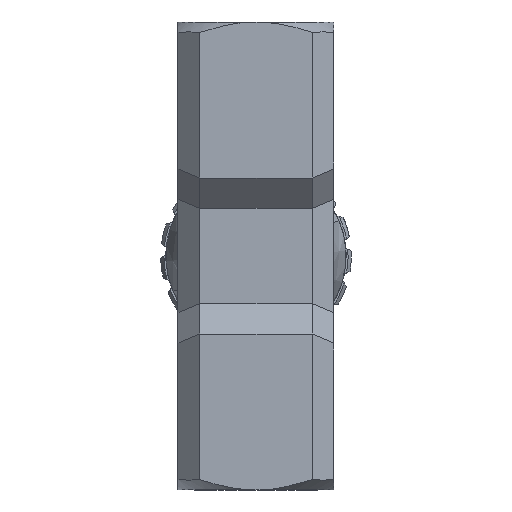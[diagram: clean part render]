
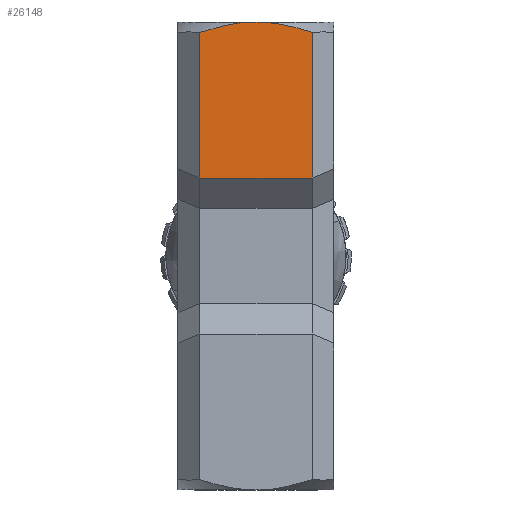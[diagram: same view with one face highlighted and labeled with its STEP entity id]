
A CAD part, front view. The second image highlights one B-rep face of the part: STEP entity #26148.
In plain terms, the highlighted planar face has unit normal (0, -1, 0).
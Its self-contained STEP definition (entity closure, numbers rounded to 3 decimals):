
#1049 = B_SPLINE_CURVE_WITH_KNOTS ( 'NONE', 3,
 ( #8892, #22765, #15868, #2037, #18190, #4359, #20524, #6667 ),
 .UNSPECIFIED., .F., .F.,
 ( 4, 2, 2, 4 ),
 ( 0.016, 0.018, 0.02, 0.023 ),
 .UNSPECIFIED. ) ;
#1063 = DIRECTION ( 'NONE',  ( 0., 0., 1. ) ) ;
#1218 = VERTEX_POINT ( 'NONE', #14076 ) ;
#1982 = LINE ( 'NONE', #27396, #13493 ) ;
#2037 = CARTESIAN_POINT ( 'NONE',  ( 2.217, -9., 26.854 ) ) ;
#2156 = DIRECTION ( 'NONE',  ( 0., 0., 1. ) ) ;
#2306 = LINE ( 'NONE', #29816, #13822 ) ;
#3825 = VERTEX_POINT ( 'NONE', #29737 ) ;
#3841 = CARTESIAN_POINT ( 'NONE',  ( -6.5, -9., 25.787 ) ) ;
#4359 = CARTESIAN_POINT ( 'NONE',  ( 4.384, -9., 26.446 ) ) ;
#4902 = CARTESIAN_POINT ( 'NONE',  ( -6.5, -9., 25.787 ) ) ;
#5733 = CARTESIAN_POINT ( 'NONE',  ( 0., -9., 27. ) ) ;
#6667 = CARTESIAN_POINT ( 'NONE',  ( 6.5, -9., 25.787 ) ) ;
#7159 = LINE ( 'NONE', #18118, #24919 ) ;
#8892 = CARTESIAN_POINT ( 'NONE',  ( 0., -9., 27. ) ) ;
#10326 = VERTEX_POINT ( 'NONE', #4902 ) ;
#10620 = CARTESIAN_POINT ( 'NONE',  ( -6.5, -9., 9. ) ) ;
#10757 = CARTESIAN_POINT ( 'NONE',  ( -2.208, -9., 26.878 ) ) ;
#10868 = FACE_OUTER_BOUND ( 'NONE', #27182, .T. ) ;
#11121 = AXIS2_PLACEMENT_3D ( 'NONE', #28761, #14866, #1063 ) ;
#11221 = ORIENTED_EDGE ( 'NONE', *, *, #29573, .F. ) ;
#13079 = CARTESIAN_POINT ( 'NONE',  ( 0., -9., 27. ) ) ;
#13493 = VECTOR ( 'NONE', #29701, 1000. ) ;
#13822 = VECTOR ( 'NONE', #2156, 1000. ) ;
#14076 = CARTESIAN_POINT ( 'NONE',  ( 6.5, -9., 9. ) ) ;
#14189 = EDGE_CURVE ( 'NONE', #1218, #3825, #2306, .T. ) ;
#14866 = DIRECTION ( 'NONE',  ( 0., 1., 0. ) ) ;
#15868 = CARTESIAN_POINT ( 'NONE',  ( 1.116, -9., 26.97 ) ) ;
#16002 = DIRECTION ( 'NONE',  ( 0., 0., -1. ) ) ;
#17645 = CARTESIAN_POINT ( 'NONE',  ( -5.45, -9., 26.141 ) ) ;
#17774 = ORIENTED_EDGE ( 'NONE', *, *, #22670, .T. ) ;
#18118 = CARTESIAN_POINT ( 'NONE',  ( -6.5, -9., 27. ) ) ;
#18190 = CARTESIAN_POINT ( 'NONE',  ( 2.762, -9., 26.769 ) ) ;
#19457 = PLANE ( 'NONE',  #11121 ) ;
#20524 = CARTESIAN_POINT ( 'NONE',  ( 5.447, -9., 26.142 ) ) ;
#21386 = VERTEX_POINT ( 'NONE', #10620 ) ;
#21543 = EDGE_CURVE ( 'NONE', #10326, #21386, #7159, .T. ) ;
#22670 = EDGE_CURVE ( 'NONE', #21386, #1218, #1982, .T. ) ;
#22765 = CARTESIAN_POINT ( 'NONE',  ( 0.556, -9., 27. ) ) ;
#23227 = ORIENTED_EDGE ( 'NONE', *, *, #21543, .T. ) ;
#23589 = ORIENTED_EDGE ( 'NONE', *, *, #25229, .F. ) ;
#24672 = CARTESIAN_POINT ( 'NONE',  ( -4.375, -9., 26.448 ) ) ;
#24919 = VECTOR ( 'NONE', #16002, 1000. ) ;
#25229 = EDGE_CURVE ( 'NONE', #10326, #25599, #28108, .T. ) ;
#25599 = VERTEX_POINT ( 'NONE', #5733 ) ;
#26148 = ADVANCED_FACE ( 'NONE', ( #10868 ), #19457, .F. ) ;
#26979 = CARTESIAN_POINT ( 'NONE',  ( -1.112, -9., 27. ) ) ;
#27182 = EDGE_LOOP ( 'NONE', ( #23589, #23227, #17774, #28635, #11221 ) ) ;
#27396 = CARTESIAN_POINT ( 'NONE',  ( -9., -9., 9. ) ) ;
#28108 = B_SPLINE_CURVE_WITH_KNOTS ( 'NONE', 3,
 ( #3841, #17645, #24672, #10757, #26979, #13079 ),
 .UNSPECIFIED., .F., .F.,
 ( 4, 2, 4 ),
 ( 0.01, 0.013, 0.016 ),
 .UNSPECIFIED. ) ;
#28635 = ORIENTED_EDGE ( 'NONE', *, *, #14189, .T. ) ;
#28761 = CARTESIAN_POINT ( 'NONE',  ( -9., -9., 27. ) ) ;
#29573 = EDGE_CURVE ( 'NONE', #25599, #3825, #1049, .T. ) ;
#29701 = DIRECTION ( 'NONE',  ( 1., 0., 0. ) ) ;
#29737 = CARTESIAN_POINT ( 'NONE',  ( 6.5, -9., 25.787 ) ) ;
#29816 = CARTESIAN_POINT ( 'NONE',  ( 6.5, -9., 27. ) ) ;
